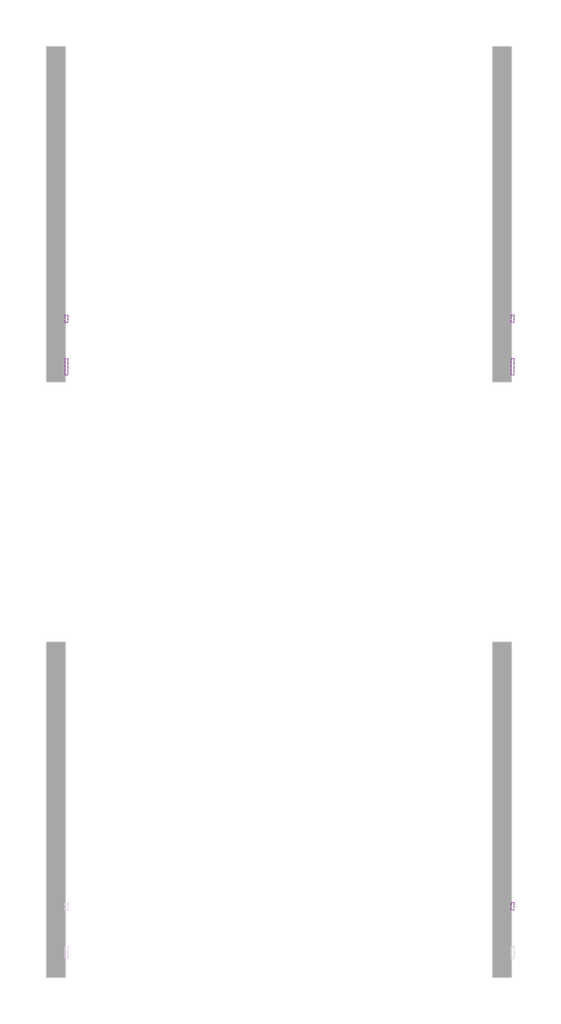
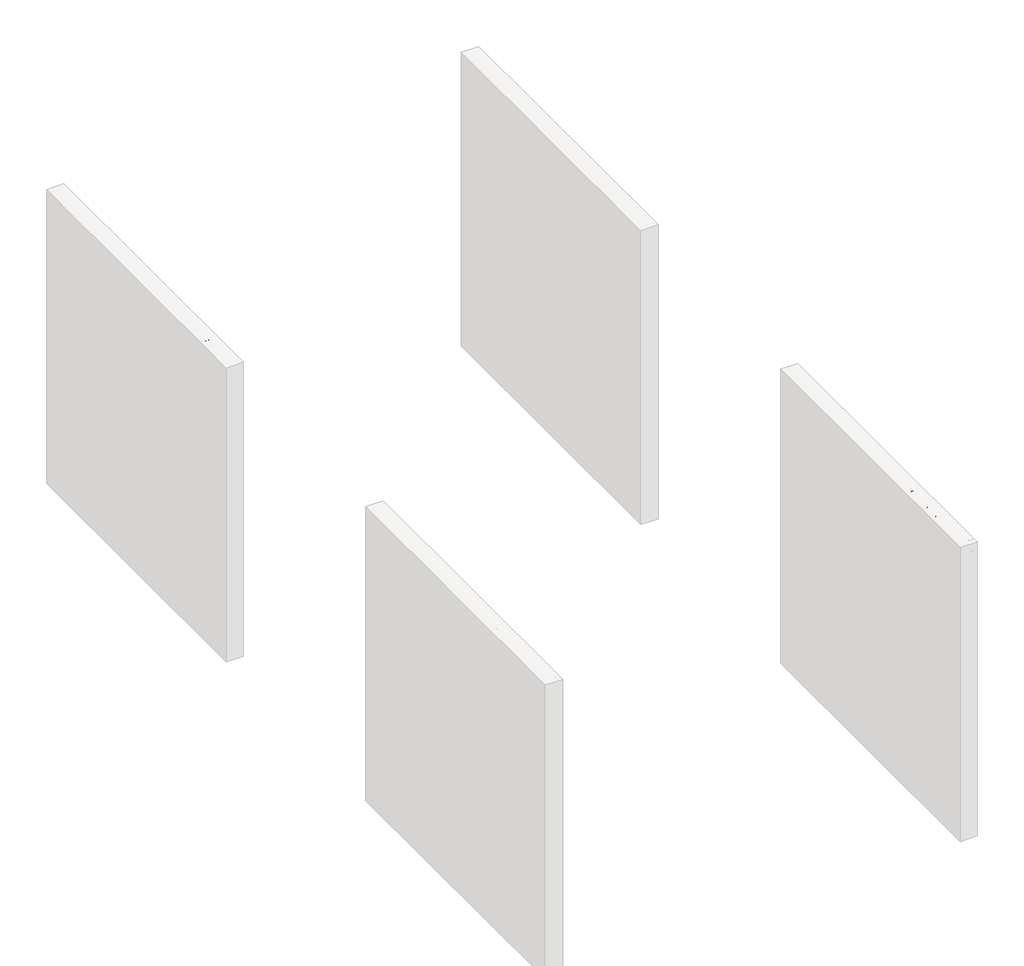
# One storey, part 8 of 9: 5 proxies.
"""IFC4 building model written with IfcOpenShell, lengths in millimetres."""

from ifc_helpers import new_model, si_unit, frame, origin, place, context, project, spatial, polyline, outline, extrude, element, save

model = new_model("IFC4")

# Units and contexts
model_context = context("Model", 3, world=origin())
ifc_project = project(units=[si_unit("LENGTHUNIT", "METRE", prefix="MILLI")], contexts=[model_context])

# Site, building, storey
site = spatial("IfcSite", under=ifc_project)
building = spatial("IfcBuilding", under=site)
storey = spatial("IfcBuildingStorey", under=building, Name="PORTOBELLO - SHOWROOM", Elevation=0.0)

# Proxies
placement = place(None, origin())
element("IfcBuildingElementProxy", 1, Name="10mm Arial", ObjectType="10mm Arial", at=placement, inside=storey, context=model_context, shape_type="SweptSolid", body=[
    extrude(outline(polyline([(18131.9708745, 2548.8308244), (18104.5759286, 2649.2871345), (18117.5253748, 2649.2871345), (18133.417877, 2583.2645791), (18138.3229703, 2562.8839166), (18143.5714201, 2580.9101344), (18163.4860987, 2649.2871345), (18182.1499786, 2649.2871345), (18196.6200038, 2599.721167), (18207.3866835, 2562.8839166), (18212.144624, 2582.6759679), (18228.184279, 2649.2871345), (18241.1337252, 2649.2871345), (18213.7142538, 2548.8308244), (18200.2988237, 2548.8308244), (18176.2148158, 2626.331298), (18172.8548269, 2637.1470287), (18169.0779051, 2624.1240061), (18147.1276127, 2548.8308244), (18131.9708745, 2548.8308244)])), frame((-18784.5594677, 0.0, 0.0), z_axis=(1.0, 0.0, 0.0), x_axis=(0.0, 1.0, 0.0)), (0.0, 0.0, 1.0), 20.0),
    extrude(outline(polyline([(18252.1211341, 2548.8308244), (18252.1211341, 2649.2871345), (18264.6781729, 2649.2871345), (18264.6781729, 2612.3517822), (18274.4699653, 2621.2177383), (18286.5303634, 2624.173057), (18300.6325065, 2620.9479582), (18309.1918943, 2612.0329512), (18311.7670683, 2595.5273123), (18311.7670683, 2548.8308244), (18299.2100295, 2548.8308244), (18299.2100295, 2594.2274626), (18295.2123785, 2607.4712144), (18283.881613, 2611.6160182), (18273.5931799, 2608.8201151), (18266.7260493, 2601.241746), (18264.6781729, 2588.0225196), (18264.6781729, 2548.8308244), (18252.1211341, 2548.8308244)])), frame((-18784.5594677, 0.0, 0.0), z_axis=(1.0, 0.0, 0.0), x_axis=(0.0, 1.0, 0.0)), (0.0, 0.0, 1.0), 20.0),
    extrude(outline(polyline([(-18764.5594677, 18341.5900353), (-18764.5594677, 18329.0329966), (-18784.5594677, 18329.0329966), (-18784.5594677, 18341.5900353), (-18764.5594677, 18341.5900353)])), frame((0.0, 0.0, 2548.8308244), z_axis=(0.0, 0.0, 1.0), x_axis=(1.0, 0.0, 0.0)), (0.0, 0.0, 1.0), 73.7726028),
    extrude(outline(polyline([(-18764.5594677, 18341.5900353), (-18764.5594677, 18329.0329966), (-18784.5594677, 18329.0329966), (-18784.5594677, 18341.5900353), (-18764.5594677, 18341.5900353)])), frame((0.0, 0.0, 2636.7300958), z_axis=(0.0, 0.0, 1.0), x_axis=(1.0, 0.0, 0.0)), (0.0, 0.0, 1.0), 12.5570388),
    extrude(outline(polyline([(18387.1093009, 2559.3031985), (18388.6789307, 2548.4629424), (18379.2856771, 2547.2611945), (18368.7642521, 2549.3458592), (18363.5158023, 2554.8150382), (18361.9952233, 2569.0643341), (18361.9952233, 2610.0463884), (18352.5774443, 2610.0463884), (18352.5774443, 2622.6034271), (18361.9952233, 2622.6034271), (18361.9952233, 2640.531543), (18374.5522621, 2647.9137084), (18374.5522621, 2622.6034271), (18387.1093009, 2622.6034271), (18387.1093009, 2610.0463884), (18374.5522621, 2610.0463884), (18374.5522621, 2569.4322161), (18375.2144497, 2562.957493), (18377.360428, 2560.6643619), (18381.6401219, 2559.8182333), (18387.1093009, 2559.3031985)])), frame((-18784.5594677, 0.0, 0.0), z_axis=(1.0, 0.0, 0.0), x_axis=(0.0, 1.0, 0.0)), (0.0, 0.0, 1.0), 20.0),
    extrude(outline(polyline([(18451.3169718, 2570.8056422), (18463.6287559, 2569.2360124), (18459.1927122, 2559.9592547), (18452.1140494, 2553.0246791), (18442.5521832, 2548.7020657), (18430.6665291, 2547.2611945), (18415.9328552, 2549.7474637), (18404.5959584, 2557.2062711), (18397.3670772, 2569.1532389), (18394.9574501, 2585.1039891), (18397.3916026, 2601.5912339), (18404.6940602, 2613.9214121), (18415.8776729, 2621.6101458), (18429.9552906, 2624.173057), (18443.5945156, 2621.6162771), (18454.4930197, 2613.9459375), (18461.6391274, 2601.6402848), (18464.0211633, 2585.1775655), (18463.9475869, 2581.7930512), (18407.5144889, 2581.7930512), (18409.6880583, 2572.3936662), (18414.7372387, 2565.483616), (18422.0243679, 2561.234579), (18430.9117838, 2559.8182333), (18443.2235679, 2562.4424582), (18451.3169718, 2570.8056422)]), holes=[polyline([(18407.5144889, 2594.3500899), (18451.4641246, 2594.3500899), (18446.436404, 2605.7299063), (18439.1155523, 2610.1444902), (18429.9062397, 2611.6160182), (18414.4429331, 2606.9193914), (18409.5776937, 2601.4287526), (18407.5144889, 2594.3500899)])]), frame((-18784.5594677, 0.0, 0.0), z_axis=(1.0, 0.0, 0.0), x_axis=(0.0, 1.0, 0.0)), (0.0, 0.0, 1.0), 20.0),
])
element("IfcBuildingElementProxy", 2, Name="10mm Arial", ObjectType="10mm Arial", at=placement, inside=storey, context=model_context, shape_type="SweptSolid", body=[
    extrude(outline(polyline([(18131.9708745, 2548.8308244), (18104.5759286, 2649.2871345), (18117.5253748, 2649.2871345), (18133.417877, 2583.2645791), (18138.3229703, 2562.8839166), (18143.5714201, 2580.9101344), (18163.4860987, 2649.2871345), (18182.1499786, 2649.2871345), (18196.6200038, 2599.721167), (18207.3866835, 2562.8839166), (18212.144624, 2582.6759679), (18228.184279, 2649.2871345), (18241.1337252, 2649.2871345), (18213.7142538, 2548.8308244), (18200.2988237, 2548.8308244), (18176.2148158, 2626.331298), (18172.8548269, 2637.1470287), (18169.0779051, 2624.1240061), (18147.1276127, 2548.8308244), (18131.9708745, 2548.8308244)])), frame((-22384.5594677, 0.0, 0.0), z_axis=(1.0, 0.0, 0.0), x_axis=(0.0, 1.0, 0.0)), (0.0, 0.0, 1.0), 20.0),
    extrude(outline(polyline([(18252.1211341, 2548.8308244), (18252.1211341, 2649.2871345), (18264.6781729, 2649.2871345), (18264.6781729, 2612.3517822), (18274.4699653, 2621.2177383), (18286.5303634, 2624.173057), (18300.6325065, 2620.9479582), (18309.1918943, 2612.0329512), (18311.7670683, 2595.5273123), (18311.7670683, 2548.8308244), (18299.2100295, 2548.8308244), (18299.2100295, 2594.2274626), (18295.2123785, 2607.4712144), (18283.881613, 2611.6160182), (18273.5931799, 2608.8201151), (18266.7260493, 2601.241746), (18264.6781729, 2588.0225196), (18264.6781729, 2548.8308244), (18252.1211341, 2548.8308244)])), frame((-22384.5594677, 0.0, 0.0), z_axis=(1.0, 0.0, 0.0), x_axis=(0.0, 1.0, 0.0)), (0.0, 0.0, 1.0), 20.0),
    extrude(outline(polyline([(-22364.5594677, 18341.5900353), (-22364.5594677, 18329.0329966), (-22384.5594677, 18329.0329966), (-22384.5594677, 18341.5900353), (-22364.5594677, 18341.5900353)])), frame((0.0, 0.0, 2548.8308244), z_axis=(0.0, 0.0, 1.0), x_axis=(1.0, 0.0, 0.0)), (0.0, 0.0, 1.0), 73.7726028),
    extrude(outline(polyline([(-22364.5594677, 18341.5900353), (-22364.5594677, 18329.0329966), (-22384.5594677, 18329.0329966), (-22384.5594677, 18341.5900353), (-22364.5594677, 18341.5900353)])), frame((0.0, 0.0, 2636.7300958), z_axis=(0.0, 0.0, 1.0), x_axis=(1.0, 0.0, 0.0)), (0.0, 0.0, 1.0), 12.5570388),
    extrude(outline(polyline([(18387.1093009, 2559.3031985), (18388.6789307, 2548.4629424), (18379.2856771, 2547.2611945), (18368.7642521, 2549.3458592), (18363.5158023, 2554.8150382), (18361.9952233, 2569.0643341), (18361.9952233, 2610.0463884), (18352.5774443, 2610.0463884), (18352.5774443, 2622.6034271), (18361.9952233, 2622.6034271), (18361.9952233, 2640.531543), (18374.5522621, 2647.9137084), (18374.5522621, 2622.6034271), (18387.1093009, 2622.6034271), (18387.1093009, 2610.0463884), (18374.5522621, 2610.0463884), (18374.5522621, 2569.4322161), (18375.2144497, 2562.957493), (18377.360428, 2560.6643619), (18381.6401219, 2559.8182333), (18387.1093009, 2559.3031985)])), frame((-22384.5594677, 0.0, 0.0), z_axis=(1.0, 0.0, 0.0), x_axis=(0.0, 1.0, 0.0)), (0.0, 0.0, 1.0), 20.0),
    extrude(outline(polyline([(18451.3169718, 2570.8056422), (18463.6287559, 2569.2360124), (18459.1927122, 2559.9592547), (18452.1140494, 2553.0246791), (18442.5521832, 2548.7020657), (18430.6665291, 2547.2611945), (18415.9328552, 2549.7474637), (18404.5959584, 2557.2062711), (18397.3670772, 2569.1532389), (18394.9574501, 2585.1039891), (18397.3916026, 2601.5912339), (18404.6940602, 2613.9214121), (18415.8776729, 2621.6101458), (18429.9552906, 2624.173057), (18443.5945156, 2621.6162771), (18454.4930197, 2613.9459375), (18461.6391274, 2601.6402848), (18464.0211633, 2585.1775655), (18463.9475869, 2581.7930512), (18407.5144889, 2581.7930512), (18409.6880583, 2572.3936662), (18414.7372387, 2565.483616), (18422.0243679, 2561.234579), (18430.9117838, 2559.8182333), (18443.2235679, 2562.4424582), (18451.3169718, 2570.8056422)]), holes=[polyline([(18407.5144889, 2594.3500899), (18451.4641246, 2594.3500899), (18446.436404, 2605.7299063), (18439.1155523, 2610.1444902), (18429.9062397, 2611.6160182), (18414.4429331, 2606.9193914), (18409.5776937, 2601.4287526), (18407.5144889, 2594.3500899)])]), frame((-22384.5594677, 0.0, 0.0), z_axis=(1.0, 0.0, 0.0), x_axis=(0.0, 1.0, 0.0)), (0.0, 0.0, 1.0), 20.0),
])
element("IfcBuildingElementProxy", 3, Name="10mm Arial Narrow", ObjectType="10mm Arial Narrow", at=placement, inside=storey, context=model_context, shape_type="SweptSolid", body=[
    extrude(outline(polyline([(13793.5169571, 2548.8308244), (13793.5169571, 2649.5494281), (13824.8138418, 2649.5494281), (13841.1095433, 2647.6711074), (13852.5825295, 2638.1906642), (13856.8722079, 2621.1715554), (13855.0858995, 2609.0957299), (13849.7269743, 2599.4693361), (13839.9831855, 2593.1680777), (13825.0422862, 2591.0676582), (13803.2639188, 2591.0676582), (13803.2639188, 2548.8308244), (13793.5169571, 2548.8308244)]), holes=[polyline([(13803.2639188, 2602.4391135), (13826.2352737, 2602.4391135), (13842.0994691, 2606.9699277), (13847.1252462, 2620.6385184), (13844.6504318, 2630.8042949), (13838.6728029, 2636.6042447), (13826.0068293, 2638.1779729), (13803.2639188, 2638.1779729), (13803.2639188, 2602.4391135)])]), frame((-18784.5594677, 0.0, 0.0), z_axis=(1.0, 0.0, 0.0), x_axis=(0.0, 1.0, 0.0)), (0.0, 0.0, 1.0), 20.0),
    extrude(outline(polyline([(13864.9946759, 2585.3819306), (13866.9491448, 2601.9727061), (13872.8125514, 2613.9247909), (13881.6711181, 2621.1493455), (13892.6110673, 2623.5575304), (13903.4241029, 2621.1493455), (13912.3080523, 2613.9247909), (13918.247607, 2602.1630765), (13920.2274586, 2586.143412), (13918.2825083, 2568.9815254), (13912.4476572, 2556.8390702), (13903.598609, 2549.6145156), (13892.6110673, 2547.2063308), (13881.7504391, 2549.6208613), (13872.8760082, 2556.8644529), (13866.965009, 2568.8228834), (13864.9946759, 2585.3819306)]), holes=[polyline([(13874.7416376, 2585.4073133), (13876.0456744, 2572.8555619), (13879.957785, 2563.9843038), (13885.7989818, 2558.7110453), (13892.8902771, 2556.9532924), (13899.6103503, 2558.7269095), (13905.3024236, 2564.0477606), (13909.1859786, 2572.9348829), (13910.480497, 2585.4073133), (13909.1764601, 2597.9209906), (13905.2643495, 2606.7795573), (13899.4231528, 2612.0528159), (13892.3318574, 2613.8105687), (13885.5641917, 2612.0432974), (13879.8816369, 2606.7414833), (13876.0266374, 2597.873398), (13874.7416376, 2585.4073133)])]), frame((-18784.5594677, 0.0, 0.0), z_axis=(1.0, 0.0, 0.0), x_axis=(0.0, 1.0, 0.0)), (0.0, 0.0, 1.0), 20.0),
    extrude(outline(polyline([(13991.7051774, 2556.9532924), (13993.329671, 2547.2063308), (13985.9686844, 2547.2063308), (13977.6939201, 2549.3257873), (13973.3788589, 2555.1257371), (13972.2112541, 2569.7715623), (13972.2112541, 2612.1860751), (13964.0887861, 2612.1860751), (13964.0887861, 2615.4350623), (13962.4642925, 2610.5615815), (13954.9002441, 2612.1860751), (13948.8210844, 2609.8635569), (13944.9502207, 2603.3782738), (13942.9703692, 2587.9709673), (13942.9703692, 2548.8308244), (13933.2234075, 2548.8308244), (13933.2234075, 2621.9330368), (13942.9703692, 2621.9330368), (13942.9703692, 2612.2368406), (13949.2145165, 2621.3238517), (13955.6109601, 2623.5575304), (13964.0887861, 2621.9330368), (13972.2112541, 2621.9330368), (13972.2112541, 2638.1779729), (13981.9582158, 2646.3004409), (13981.9582158, 2621.9330368), (13991.7051774, 2621.9330368), (13991.7051774, 2612.1860751), (13981.9582158, 2612.1860751), (13981.9582158, 2567.5378836), (13982.821228, 2559.5423291), (13987.4408817, 2556.9532924), (13991.7051774, 2556.9532924)])), frame((-18784.5594677, 0.0, 0.0), z_axis=(1.0, 0.0, 0.0), x_axis=(0.0, 1.0, 0.0)), (0.0, 0.0, 1.0), 20.0),
    extrude(outline(polyline([(13998.2031519, 2585.3819306), (14000.1576207, 2601.9727061), (14006.0210274, 2613.9247909), (14014.8795941, 2621.1493455), (14025.8195432, 2623.5575304), (14036.6325788, 2621.1493455), (14045.5165282, 2613.9247909), (14051.456083, 2602.1630765), (14053.4359346, 2586.143412), (14051.4909842, 2568.9815254), (14045.6561331, 2556.8390702), (14036.8070849, 2549.6145156), (14025.8195432, 2547.2063308), (14014.958915, 2549.6208613), (14006.0844841, 2556.8644529), (14000.1734849, 2568.8228834), (13998.2031519, 2585.3819306)]), holes=[polyline([(14007.9501135, 2585.4073133), (14009.2541504, 2572.8555619), (14013.166261, 2563.9843038), (14019.0074577, 2558.7110453), (14026.0987531, 2556.9532924), (14032.8188262, 2558.7269095), (14038.5108995, 2564.0477606), (14042.3944546, 2572.9348829), (14043.6889729, 2585.4073133), (14042.3849361, 2597.9209906), (14038.4728255, 2606.7795573), (14032.6316287, 2612.0528159), (14025.5403334, 2613.8105687), (14018.7726676, 2612.0432974), (14013.0901128, 2606.7414833), (14009.2351133, 2597.873398), (14007.9501135, 2585.4073133)])]), frame((-18784.5594677, 0.0, 0.0), z_axis=(1.0, 0.0, 0.0), x_axis=(0.0, 1.0, 0.0)), (0.0, 0.0, 1.0), 20.0),
    extrude(outline(polyline([(14076.1788451, 2548.8308244), (14066.4318834, 2548.8308244), (14066.4318834, 2649.5494281), (14076.1788451, 2649.5494281), (14076.1788451, 2614.140544), (14083.5779058, 2621.2223208), (14092.7791392, 2623.5575304), (14105.6608658, 2619.3566915), (14114.9382473, 2606.6272611), (14118.4156789, 2585.9403503), (14116.4834199, 2569.4860068), (14110.6866429, 2557.2832677), (14102.3135206, 2549.725565), (14092.6522256, 2547.2063308), (14083.3113873, 2549.8207502), (14076.1788451, 2557.5878602), (14076.1788451, 2548.8308244)]), holes=[polyline([(14076.1788451, 2585.9403503), (14078.2602275, 2568.692797), (14084.1490169, 2559.9611439), (14092.6014602, 2556.9532924), (14098.5441878, 2558.7427737), (14103.7825451, 2564.1112174), (14108.6687173, 2585.5342269), (14103.9602241, 2606.9699277), (14098.7155211, 2612.1004085), (14092.3983985, 2613.8105687), (14086.4207696, 2612.0210875), (14081.1284741, 2606.6526438), (14076.1788451, 2585.9403503)])]), frame((-18784.5594677, 0.0, 0.0), z_axis=(1.0, 0.0, 0.0), x_axis=(0.0, 1.0, 0.0)), (0.0, 0.0, 1.0), 20.0),
    extrude(outline(polyline([(14170.3994744, 2571.5737349), (14180.1464361, 2569.9492413), (14176.4469057, 2560.0626747), (14170.6279188, 2552.9428238), (14162.9242655, 2548.640454), (14153.5707359, 2547.2063308), (14141.9771819, 2549.6208613), (14132.8330597, 2556.8644529), (14126.8935049, 2568.6705872), (14124.9136534, 2584.7727455), (14126.9030235, 2601.4396692), (14132.8711338, 2613.6201984), (14141.8851696, 2621.0731974), (14153.0123163, 2623.5575304), (14163.6952654, 2621.158864), (14172.4427828, 2613.962865), (14178.2776338, 2602.2233604), (14180.2225842, 2586.1941774), (14180.1464361, 2582.9451902), (14134.660615, 2582.9451902), (14140.6636266, 2563.5020323), (14146.5936628, 2558.5904774), (14153.6976495, 2556.9532924), (14163.8761173, 2560.608403), (14170.3994744, 2571.5737349)]), holes=[polyline([(14135.3205655, 2592.6921518), (14170.3994744, 2592.6921518), (14166.1351787, 2606.9572363), (14160.3098461, 2612.0972356), (14153.0884644, 2613.8105687), (14140.8793796, 2608.0994584), (14135.3205655, 2592.6921518)])]), frame((-18784.5594677, 0.0, 0.0), z_axis=(1.0, 0.0, 0.0), x_axis=(0.0, 1.0, 0.0)), (0.0, 0.0, 1.0), 20.0),
    extrude(outline(polyline([(-18764.5594677, 14202.8893466), (-18764.5594677, 14193.1423849), (-18784.5594677, 14193.1423849), (-18784.5594677, 14202.8893466), (-18764.5594677, 14202.8893466)])), frame((0.0, 0.0, 2548.8308244), z_axis=(0.0, 0.0, 1.0), x_axis=(1.0, 0.0, 0.0)), (0.0, 0.0, 1.0), 100.7186038),
    extrude(outline(polyline([(-18764.5594677, 14228.8812443), (-18764.5594677, 14219.1342827), (-18784.5594677, 14219.1342827), (-18784.5594677, 14228.8812443), (-18764.5594677, 14228.8812443)])), frame((0.0, 0.0, 2548.8308244), z_axis=(0.0, 0.0, 1.0), x_axis=(1.0, 0.0, 0.0)), (0.0, 0.0, 1.0), 100.7186038),
    extrude(outline(polyline([(14240.2526996, 2585.3819306), (14242.2071685, 2601.9727061), (14248.0705751, 2613.9247909), (14256.9291418, 2621.1493455), (14267.8690909, 2623.5575304), (14278.6821265, 2621.1493455), (14287.566076, 2613.9247909), (14293.5056307, 2602.1630765), (14295.4854823, 2586.143412), (14293.5405319, 2568.9815254), (14287.7056809, 2556.8390702), (14278.8566327, 2549.6145156), (14267.8690909, 2547.2063308), (14257.0084628, 2549.6208613), (14248.1340319, 2556.8644529), (14242.2230327, 2568.8228834), (14240.2526996, 2585.3819306)]), holes=[polyline([(14249.9996612, 2585.4073133), (14251.3036981, 2572.8555619), (14255.2158087, 2563.9843038), (14261.0570054, 2558.7110453), (14268.1483008, 2556.9532924), (14274.868374, 2558.7269095), (14280.5604473, 2564.0477606), (14284.4440023, 2572.9348829), (14285.7385206, 2585.4073133), (14284.4344838, 2597.9209906), (14280.5223732, 2606.7795573), (14274.6811764, 2612.0528159), (14267.5898811, 2613.8105687), (14260.8222153, 2612.0432974), (14255.1396606, 2606.7414833), (14251.2846611, 2597.873398), (14249.9996612, 2585.4073133)])]), frame((-18784.5594677, 0.0, 0.0), z_axis=(1.0, 0.0, 0.0), x_axis=(0.0, 1.0, 0.0)), (0.0, 0.0, 1.0), 20.0),
])
element("IfcBuildingElementProxy", 4, Name="10mm Arial Narrow", ObjectType="10mm Arial Narrow", at=placement, inside=storey, context=model_context, shape_type="SweptSolid", body=[
    extrude(outline(polyline([(18528.5169571, 2548.8308244), (18528.5169571, 2649.5494281), (18559.8138418, 2649.5494281), (18576.1095433, 2647.6711074), (18587.5825295, 2638.1906642), (18591.8722079, 2621.1715554), (18590.0858995, 2609.0957299), (18584.7269743, 2599.4693361), (18574.9831855, 2593.1680777), (18560.0422862, 2591.0676582), (18538.2639188, 2591.0676582), (18538.2639188, 2548.8308244), (18528.5169571, 2548.8308244)]), holes=[polyline([(18538.2639188, 2602.4391135), (18561.2352737, 2602.4391135), (18577.0994691, 2606.9699277), (18582.1252462, 2620.6385184), (18579.6504318, 2630.8042949), (18573.6728029, 2636.6042447), (18561.0068293, 2638.1779729), (18538.2639188, 2638.1779729), (18538.2639188, 2602.4391135)])]), frame((-18784.5594677, 0.0, 0.0), z_axis=(1.0, 0.0, 0.0), x_axis=(0.0, 1.0, 0.0)), (0.0, 0.0, 1.0), 20.0),
    extrude(outline(polyline([(18599.9946759, 2585.3819306), (18601.9491448, 2601.9727061), (18607.8125514, 2613.9247909), (18616.6711181, 2621.1493455), (18627.6110673, 2623.5575304), (18638.4241029, 2621.1493455), (18647.3080523, 2613.9247909), (18653.247607, 2602.1630765), (18655.2274586, 2586.143412), (18653.2825083, 2568.9815254), (18647.4476572, 2556.8390702), (18638.598609, 2549.6145156), (18627.6110673, 2547.2063308), (18616.7504391, 2549.6208613), (18607.8760082, 2556.8644529), (18601.965009, 2568.8228834), (18599.9946759, 2585.3819306)]), holes=[polyline([(18609.7416376, 2585.4073133), (18611.0456744, 2572.8555619), (18614.957785, 2563.9843038), (18620.7989818, 2558.7110453), (18627.8902771, 2556.9532924), (18634.6103503, 2558.7269095), (18640.3024236, 2564.0477606), (18644.1859786, 2572.9348829), (18645.480497, 2585.4073133), (18644.1764601, 2597.9209906), (18640.2643495, 2606.7795573), (18634.4231528, 2612.0528159), (18627.3318574, 2613.8105687), (18620.5641917, 2612.0432974), (18614.8816369, 2606.7414833), (18611.0266374, 2597.873398), (18609.7416376, 2585.4073133)])]), frame((-18784.5594677, 0.0, 0.0), z_axis=(1.0, 0.0, 0.0), x_axis=(0.0, 1.0, 0.0)), (0.0, 0.0, 1.0), 20.0),
    extrude(outline(polyline([(18726.7051774, 2556.9532924), (18728.329671, 2547.2063308), (18720.9686844, 2547.2063308), (18712.6939201, 2549.3257873), (18708.3788589, 2555.1257371), (18707.2112541, 2569.7715623), (18707.2112541, 2612.1860751), (18699.0887861, 2612.1860751), (18699.0887861, 2615.4350623), (18697.4642925, 2610.5615815), (18689.9002441, 2612.1860751), (18683.8210844, 2609.8635569), (18679.9502207, 2603.3782738), (18677.9703692, 2587.9709673), (18677.9703692, 2548.8308244), (18668.2234075, 2548.8308244), (18668.2234075, 2621.9330368), (18677.9703692, 2621.9330368), (18677.9703692, 2612.2368406), (18684.2145165, 2621.3238517), (18690.6109601, 2623.5575304), (18699.0887861, 2621.9330368), (18707.2112541, 2621.9330368), (18707.2112541, 2638.1779729), (18716.9582158, 2646.3004409), (18716.9582158, 2621.9330368), (18726.7051774, 2621.9330368), (18726.7051774, 2612.1860751), (18716.9582158, 2612.1860751), (18716.9582158, 2567.5378836), (18717.821228, 2559.5423291), (18722.4408817, 2556.9532924), (18726.7051774, 2556.9532924)])), frame((-18784.5594677, 0.0, 0.0), z_axis=(1.0, 0.0, 0.0), x_axis=(0.0, 1.0, 0.0)), (0.0, 0.0, 1.0), 20.0),
    extrude(outline(polyline([(18733.2031519, 2585.3819306), (18735.1576207, 2601.9727061), (18741.0210274, 2613.9247909), (18749.8795941, 2621.1493455), (18760.8195432, 2623.5575304), (18771.6325788, 2621.1493455), (18780.5165282, 2613.9247909), (18786.456083, 2602.1630765), (18788.4359346, 2586.143412), (18786.4909842, 2568.9815254), (18780.6561331, 2556.8390702), (18771.8070849, 2549.6145156), (18760.8195432, 2547.2063308), (18749.958915, 2549.6208613), (18741.0844841, 2556.8644529), (18735.1734849, 2568.8228834), (18733.2031519, 2585.3819306)]), holes=[polyline([(18742.9501135, 2585.4073133), (18744.2541504, 2572.8555619), (18748.166261, 2563.9843038), (18754.0074577, 2558.7110453), (18761.0987531, 2556.9532924), (18767.8188262, 2558.7269095), (18773.5108995, 2564.0477606), (18777.3944546, 2572.9348829), (18778.6889729, 2585.4073133), (18777.3849361, 2597.9209906), (18773.4728255, 2606.7795573), (18767.6316287, 2612.0528159), (18760.5403334, 2613.8105687), (18753.7726676, 2612.0432974), (18748.0901128, 2606.7414833), (18744.2351133, 2597.873398), (18742.9501135, 2585.4073133)])]), frame((-18784.5594677, 0.0, 0.0), z_axis=(1.0, 0.0, 0.0), x_axis=(0.0, 1.0, 0.0)), (0.0, 0.0, 1.0), 20.0),
    extrude(outline(polyline([(18811.1788451, 2548.8308244), (18801.4318834, 2548.8308244), (18801.4318834, 2649.5494281), (18811.1788451, 2649.5494281), (18811.1788451, 2614.140544), (18818.5779058, 2621.2223208), (18827.7791392, 2623.5575304), (18840.6608658, 2619.3566915), (18849.9382473, 2606.6272611), (18853.4156789, 2585.9403503), (18851.4834199, 2569.4860068), (18845.6866429, 2557.2832677), (18837.3135206, 2549.725565), (18827.6522256, 2547.2063308), (18818.3113873, 2549.8207502), (18811.1788451, 2557.5878602), (18811.1788451, 2548.8308244)]), holes=[polyline([(18811.1788451, 2585.9403503), (18813.2602275, 2568.692797), (18819.1490169, 2559.9611439), (18827.6014602, 2556.9532924), (18833.5441878, 2558.7427737), (18838.7825451, 2564.1112174), (18843.6687173, 2585.5342269), (18838.9602241, 2606.9699277), (18833.7155211, 2612.1004085), (18827.3983985, 2613.8105687), (18821.4207696, 2612.0210875), (18816.1284741, 2606.6526438), (18811.1788451, 2585.9403503)])]), frame((-18784.5594677, 0.0, 0.0), z_axis=(1.0, 0.0, 0.0), x_axis=(0.0, 1.0, 0.0)), (0.0, 0.0, 1.0), 20.0),
    extrude(outline(polyline([(18905.3994744, 2571.5737349), (18915.1464361, 2569.9492413), (18911.4469057, 2560.0626747), (18905.6279188, 2552.9428238), (18897.9242655, 2548.640454), (18888.5707359, 2547.2063308), (18876.9771819, 2549.6208613), (18867.8330597, 2556.8644529), (18861.8935049, 2568.6705872), (18859.9136534, 2584.7727455), (18861.9030235, 2601.4396692), (18867.8711338, 2613.6201984), (18876.8851696, 2621.0731974), (18888.0123163, 2623.5575304), (18898.6952654, 2621.158864), (18907.4427828, 2613.962865), (18913.2776338, 2602.2233604), (18915.2225842, 2586.1941774), (18915.1464361, 2582.9451902), (18869.660615, 2582.9451902), (18875.6636266, 2563.5020323), (18881.5936628, 2558.5904774), (18888.6976495, 2556.9532924), (18898.8761173, 2560.608403), (18905.3994744, 2571.5737349)]), holes=[polyline([(18870.3205655, 2592.6921518), (18905.3994744, 2592.6921518), (18901.1351787, 2606.9572363), (18895.3098461, 2612.0972356), (18888.0884644, 2613.8105687), (18875.8793796, 2608.0994584), (18870.3205655, 2592.6921518)])]), frame((-18784.5594677, 0.0, 0.0), z_axis=(1.0, 0.0, 0.0), x_axis=(0.0, 1.0, 0.0)), (0.0, 0.0, 1.0), 20.0),
    extrude(outline(polyline([(-18764.5594677, 18937.8893466), (-18764.5594677, 18928.1423849), (-18784.5594677, 18928.1423849), (-18784.5594677, 18937.8893466), (-18764.5594677, 18937.8893466)])), frame((0.0, 0.0, 2548.8308244), z_axis=(0.0, 0.0, 1.0), x_axis=(1.0, 0.0, 0.0)), (0.0, 0.0, 1.0), 100.7186038),
    extrude(outline(polyline([(-18764.5594677, 18963.8812443), (-18764.5594677, 18954.1342827), (-18784.5594677, 18954.1342827), (-18784.5594677, 18963.8812443), (-18764.5594677, 18963.8812443)])), frame((0.0, 0.0, 2548.8308244), z_axis=(0.0, 0.0, 1.0), x_axis=(1.0, 0.0, 0.0)), (0.0, 0.0, 1.0), 100.7186038),
    extrude(outline(polyline([(18975.2526996, 2585.3819306), (18977.2071685, 2601.9727061), (18983.0705751, 2613.9247909), (18991.9291418, 2621.1493455), (19002.8690909, 2623.5575304), (19013.6821265, 2621.1493455), (19022.566076, 2613.9247909), (19028.5056307, 2602.1630765), (19030.4854823, 2586.143412), (19028.5405319, 2568.9815254), (19022.7056809, 2556.8390702), (19013.8566327, 2549.6145156), (19002.8690909, 2547.2063308), (18992.0084628, 2549.6208613), (18983.1340319, 2556.8644529), (18977.2230327, 2568.8228834), (18975.2526996, 2585.3819306)]), holes=[polyline([(18984.9996612, 2585.4073133), (18986.3036981, 2572.8555619), (18990.2158087, 2563.9843038), (18996.0570054, 2558.7110453), (19003.1483008, 2556.9532924), (19009.868374, 2558.7269095), (19015.5604473, 2564.0477606), (19019.4440023, 2572.9348829), (19020.7385206, 2585.4073133), (19019.4344838, 2597.9209906), (19015.5223732, 2606.7795573), (19009.6811764, 2612.0528159), (19002.5898811, 2613.8105687), (18995.8222153, 2612.0432974), (18990.1396606, 2606.7414833), (18986.2846611, 2597.873398), (18984.9996612, 2585.4073133)])]), frame((-18784.5594677, 0.0, 0.0), z_axis=(1.0, 0.0, 0.0), x_axis=(0.0, 1.0, 0.0)), (0.0, 0.0, 1.0), 20.0),
])
element("IfcBuildingElementProxy", 5, Name="10mm Arial Narrow", ObjectType="10mm Arial Narrow", at=placement, inside=storey, context=model_context, shape_type="SweptSolid", body=[
    extrude(outline(polyline([(18528.5169571, 2548.8308244), (18528.5169571, 2649.5494281), (18559.8138418, 2649.5494281), (18576.1095433, 2647.6711074), (18587.5825294, 2638.1906642), (18591.8722079, 2621.1715554), (18590.0858995, 2609.0957299), (18584.7269743, 2599.4693361), (18574.9831855, 2593.1680777), (18560.0422862, 2591.0676582), (18538.2639188, 2591.0676582), (18538.2639188, 2548.8308244), (18528.5169571, 2548.8308244)]), holes=[polyline([(18538.2639188, 2602.4391135), (18561.2352737, 2602.4391135), (18577.0994691, 2606.9699277), (18582.1252462, 2620.6385184), (18579.6504318, 2630.8042949), (18573.6728029, 2636.6042447), (18561.0068293, 2638.1779729), (18538.2639188, 2638.1779729), (18538.2639188, 2602.4391135)])]), frame((-22384.5594677, 0.0, 0.0), z_axis=(1.0, 0.0, 0.0), x_axis=(0.0, 1.0, 0.0)), (0.0, 0.0, 1.0), 20.0),
    extrude(outline(polyline([(18599.9946759, 2585.3819306), (18601.9491448, 2601.9727061), (18607.8125514, 2613.9247909), (18616.6711181, 2621.1493455), (18627.6110673, 2623.5575304), (18638.4241029, 2621.1493455), (18647.3080523, 2613.9247909), (18653.247607, 2602.1630765), (18655.2274586, 2586.143412), (18653.2825083, 2568.9815254), (18647.4476572, 2556.8390702), (18638.598609, 2549.6145156), (18627.6110673, 2547.2063308), (18616.7504391, 2549.6208613), (18607.8760082, 2556.8644529), (18601.965009, 2568.8228834), (18599.9946759, 2585.3819306)]), holes=[polyline([(18609.7416376, 2585.4073133), (18611.0456744, 2572.8555619), (18614.957785, 2563.9843038), (18620.7989818, 2558.7110453), (18627.8902771, 2556.9532924), (18634.6103503, 2558.7269095), (18640.3024236, 2564.0477606), (18644.1859786, 2572.9348829), (18645.480497, 2585.4073133), (18644.1764601, 2597.9209906), (18640.2643495, 2606.7795573), (18634.4231528, 2612.0528159), (18627.3318574, 2613.8105687), (18620.5641917, 2612.0432974), (18614.8816369, 2606.7414833), (18611.0266374, 2597.873398), (18609.7416376, 2585.4073133)])]), frame((-22384.5594677, 0.0, 0.0), z_axis=(1.0, 0.0, 0.0), x_axis=(0.0, 1.0, 0.0)), (0.0, 0.0, 1.0), 20.0),
    extrude(outline(polyline([(18726.7051774, 2556.9532924), (18728.329671, 2547.2063308), (18720.9686844, 2547.2063308), (18712.69392, 2549.3257873), (18708.3788589, 2555.1257371), (18707.2112541, 2569.7715623), (18707.2112541, 2612.1860751), (18699.0887861, 2612.1860751), (18699.0887861, 2615.4350623), (18697.4642925, 2610.5615815), (18689.9002441, 2612.1860751), (18683.8210844, 2609.8635569), (18679.9502207, 2603.3782738), (18677.9703692, 2587.9709673), (18677.9703692, 2548.8308244), (18668.2234075, 2548.8308244), (18668.2234075, 2621.9330368), (18677.9703692, 2621.9330368), (18677.9703692, 2612.2368406), (18684.2145165, 2621.3238517), (18690.6109601, 2623.5575304), (18699.0887861, 2621.9330368), (18707.2112541, 2621.9330368), (18707.2112541, 2638.1779729), (18716.9582158, 2646.3004409), (18716.9582158, 2621.9330368), (18726.7051774, 2621.9330368), (18726.7051774, 2612.1860751), (18716.9582158, 2612.1860751), (18716.9582158, 2567.5378836), (18717.821228, 2559.5423291), (18722.4408817, 2556.9532924), (18726.7051774, 2556.9532924)])), frame((-22384.5594677, 0.0, 0.0), z_axis=(1.0, 0.0, 0.0), x_axis=(0.0, 1.0, 0.0)), (0.0, 0.0, 1.0), 20.0),
    extrude(outline(polyline([(18733.2031519, 2585.3819306), (18735.1576207, 2601.9727061), (18741.0210274, 2613.9247909), (18749.8795941, 2621.1493455), (18760.8195432, 2623.5575304), (18771.6325788, 2621.1493455), (18780.5165282, 2613.9247909), (18786.456083, 2602.1630765), (18788.4359346, 2586.143412), (18786.4909842, 2568.9815254), (18780.6561331, 2556.8390702), (18771.8070849, 2549.6145156), (18760.8195432, 2547.2063308), (18749.958915, 2549.6208613), (18741.0844841, 2556.8644529), (18735.1734849, 2568.8228834), (18733.2031519, 2585.3819306)]), holes=[polyline([(18742.9501135, 2585.4073133), (18744.2541504, 2572.8555619), (18748.166261, 2563.9843038), (18754.0074577, 2558.7110453), (18761.0987531, 2556.9532924), (18767.8188262, 2558.7269095), (18773.5108995, 2564.0477606), (18777.3944546, 2572.9348829), (18778.6889729, 2585.4073133), (18777.384936, 2597.9209906), (18773.4728255, 2606.7795573), (18767.6316287, 2612.0528159), (18760.5403334, 2613.8105687), (18753.7726676, 2612.0432974), (18748.0901128, 2606.7414833), (18744.2351133, 2597.873398), (18742.9501135, 2585.4073133)])]), frame((-22384.5594677, 0.0, 0.0), z_axis=(1.0, 0.0, 0.0), x_axis=(0.0, 1.0, 0.0)), (0.0, 0.0, 1.0), 20.0),
    extrude(outline(polyline([(18811.1788451, 2548.8308244), (18801.4318834, 2548.8308244), (18801.4318834, 2649.5494281), (18811.1788451, 2649.5494281), (18811.1788451, 2614.140544), (18818.5779058, 2621.2223208), (18827.7791392, 2623.5575304), (18840.6608658, 2619.3566915), (18849.9382473, 2606.6272611), (18853.4156789, 2585.9403503), (18851.4834199, 2569.4860068), (18845.6866429, 2557.2832677), (18837.3135206, 2549.725565), (18827.6522256, 2547.2063308), (18818.3113873, 2549.8207502), (18811.1788451, 2557.5878602), (18811.1788451, 2548.8308244)]), holes=[polyline([(18811.1788451, 2585.9403503), (18813.2602275, 2568.692797), (18819.1490169, 2559.9611439), (18827.6014602, 2556.9532924), (18833.5441878, 2558.7427737), (18838.7825451, 2564.1112174), (18843.6687173, 2585.5342269), (18838.9602241, 2606.9699277), (18833.7155211, 2612.1004085), (18827.3983985, 2613.8105687), (18821.4207696, 2612.0210875), (18816.1284741, 2606.6526438), (18811.1788451, 2585.9403503)])]), frame((-22384.5594677, 0.0, 0.0), z_axis=(1.0, 0.0, 0.0), x_axis=(0.0, 1.0, 0.0)), (0.0, 0.0, 1.0), 20.0),
    extrude(outline(polyline([(18905.3994744, 2571.5737349), (18915.1464361, 2569.9492413), (18911.4469057, 2560.0626747), (18905.6279188, 2552.9428238), (18897.9242655, 2548.640454), (18888.5707359, 2547.2063308), (18876.9771819, 2549.6208613), (18867.8330597, 2556.8644529), (18861.8935049, 2568.6705872), (18859.9136534, 2584.7727455), (18861.9030235, 2601.4396692), (18867.8711338, 2613.6201984), (18876.8851696, 2621.0731974), (18888.0123162, 2623.5575304), (18898.6952654, 2621.158864), (18907.4427828, 2613.962865), (18913.2776338, 2602.2233604), (18915.2225842, 2586.1941774), (18915.1464361, 2582.9451902), (18869.660615, 2582.9451902), (18875.6636266, 2563.5020323), (18881.5936628, 2558.5904774), (18888.6976495, 2556.9532924), (18898.8761173, 2560.608403), (18905.3994744, 2571.5737349)]), holes=[polyline([(18870.3205655, 2592.6921518), (18905.3994744, 2592.6921518), (18901.1351787, 2606.9572363), (18895.3098461, 2612.0972356), (18888.0884644, 2613.8105687), (18875.8793796, 2608.0994584), (18870.3205655, 2592.6921518)])]), frame((-22384.5594677, 0.0, 0.0), z_axis=(1.0, 0.0, 0.0), x_axis=(0.0, 1.0, 0.0)), (0.0, 0.0, 1.0), 20.0),
    extrude(outline(polyline([(-22364.5594677, 18937.8893466), (-22364.5594677, 18928.1423849), (-22384.5594677, 18928.1423849), (-22384.5594677, 18937.8893466), (-22364.5594677, 18937.8893466)])), frame((0.0, 0.0, 2548.8308244), z_axis=(0.0, 0.0, 1.0), x_axis=(1.0, 0.0, 0.0)), (0.0, 0.0, 1.0), 100.7186038),
    extrude(outline(polyline([(-22364.5594677, 18963.8812443), (-22364.5594677, 18954.1342827), (-22384.5594677, 18954.1342827), (-22384.5594677, 18963.8812443), (-22364.5594677, 18963.8812443)])), frame((0.0, 0.0, 2548.8308244), z_axis=(0.0, 0.0, 1.0), x_axis=(1.0, 0.0, 0.0)), (0.0, 0.0, 1.0), 100.7186038),
    extrude(outline(polyline([(18975.2526996, 2585.3819306), (18977.2071685, 2601.9727061), (18983.0705751, 2613.9247909), (18991.9291418, 2621.1493455), (19002.8690909, 2623.5575304), (19013.6821265, 2621.1493455), (19022.566076, 2613.9247909), (19028.5056307, 2602.1630765), (19030.4854823, 2586.143412), (19028.5405319, 2568.9815254), (19022.7056809, 2556.8390702), (19013.8566327, 2549.6145156), (19002.8690909, 2547.2063308), (18992.0084628, 2549.6208613), (18983.1340319, 2556.8644529), (18977.2230327, 2568.8228834), (18975.2526996, 2585.3819306)]), holes=[polyline([(18984.9996612, 2585.4073133), (18986.3036981, 2572.8555619), (18990.2158087, 2563.9843038), (18996.0570054, 2558.7110453), (19003.1483008, 2556.9532924), (19009.868374, 2558.7269095), (19015.5604473, 2564.0477606), (19019.4440023, 2572.9348829), (19020.7385206, 2585.4073133), (19019.4344838, 2597.9209906), (19015.5223732, 2606.7795573), (19009.6811764, 2612.0528159), (19002.5898811, 2613.8105687), (18995.8222153, 2612.0432974), (18990.1396606, 2606.7414833), (18986.2846611, 2597.873398), (18984.9996612, 2585.4073133)])]), frame((-22384.5594677, 0.0, 0.0), z_axis=(1.0, 0.0, 0.0), x_axis=(0.0, 1.0, 0.0)), (0.0, 0.0, 1.0), 20.0),
])

save(model, "model.ifc")
